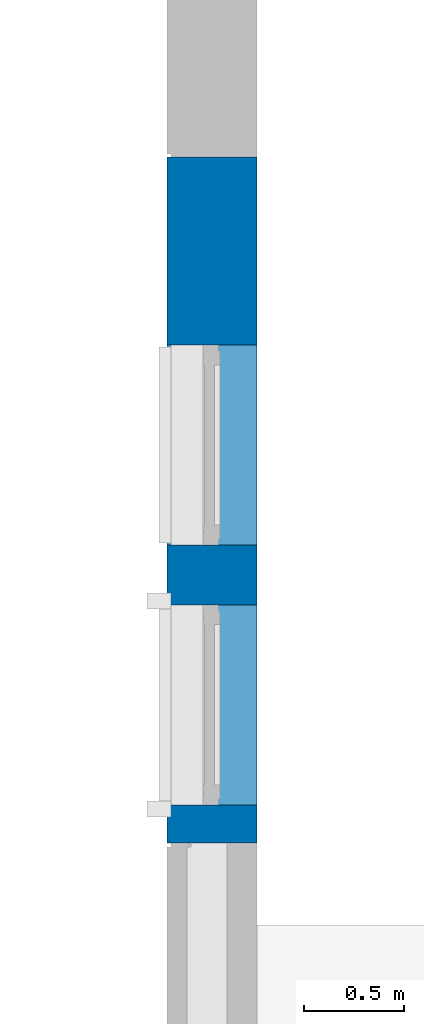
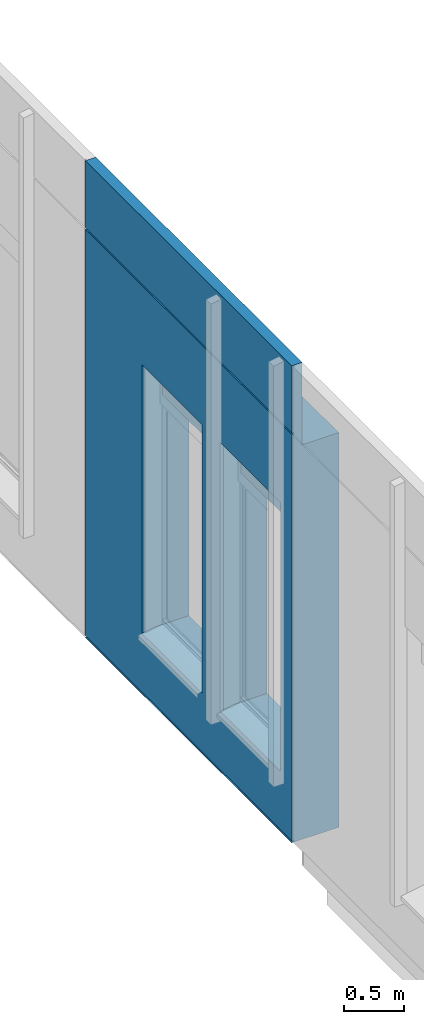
# One storey, part 8 of 33: 1 wall, 4 openings.
"""IFC2X3 building model written with IfcOpenShell, lengths in millimetres."""

import ifcopenshell
import ifcopenshell.guid

model = None  # the IFC model being written
_history = None  # IfcOwnerHistory: only IFC2X3 demands one
_inside = {}  # id of a spatial element -> (the spatial element, [elements in it])
_under = {}  # id of a project, library or spatial element -> (it, [spatial elements below it])
_declared = {}  # id of a project -> (the project, [libraries it declares])
_typed = {}  # id of a type object -> (the type object, [elements of that type])
_made_of = {}  # id of a material, layer set ... -> (it, [elements and type objects made of it])


def new_model(schema):
    """Start an empty IFC model of exactly this schema.

    Asked for "IFC4X3", IfcOpenShell would pick the latest addendum, in which some entities
    have other attributes; the version numbers below select the first issue.
    IFC2X3 requires an IfcOwnerHistory on every rooted entity: one is made here for all.
    """
    global model, _history
    if schema == "IFC4X3":
        model = ifcopenshell.file(schema_version=(4, 3, 0, 0))
    else:
        model = ifcopenshell.file(schema=schema)
    _inside.clear()
    _under.clear()
    _declared.clear()
    _typed.clear()
    _made_of.clear()
    _history = None
    if model.schema == "IFC2X3":
        org = make("IfcOrganization", Name="unknown")
        user = make(
            "IfcPersonAndOrganization",
            ThePerson=make("IfcPerson", FamilyName="unknown"),
            TheOrganization=org,
        )
        app = make(
            "IfcApplication",
            ApplicationDeveloper=org,
            Version="unknown",
            ApplicationFullName="unknown",
            ApplicationIdentifier="unknown",
        )
        _history = make(
            "IfcOwnerHistory",
            OwningUser=user,
            OwningApplication=app,
            ChangeAction="ADDED",
            CreationDate=0,
        )
    return model


def make(cls, **values):
    """One entity of the class cls with the attributes given. An attribute that is None is left unset."""
    return model.create_entity(
        cls, **{name: value for name, value in values.items() if value is not None}
    )


def entity(cls, *values):
    """Any entity or typed value of the class cls, its attributes in the order of the schema. None: left unset."""
    e = model.create_entity(cls)
    for i, value in enumerate(values):
        if value is not None:
            e[i] = value
    return e


def rooted(cls, **values):
    """An entity with a GlobalId (a new one), such as an element, a storey or a relation."""
    return make(cls, GlobalId=ifcopenshell.guid.new(), OwnerHistory=_history, **values)


def si_unit(unit_type, name, prefix=None):
    """IfcSIUnit, for example si_unit("LENGTHUNIT", "METRE", prefix="MILLI")."""
    return make("IfcSIUnit", UnitType=unit_type, Prefix=prefix, Name=name)


def converted_unit(unit_type, name, factor, base, dimensions=None, offset=None):
    """IfcConversionBasedUnit, such as the inch: factor (a typed value) times the base unit."""
    return make(
        "IfcConversionBasedUnit"
        if offset is None
        else "IfcConversionBasedUnitWithOffset",
        ConversionOffset=offset,
        Dimensions=None
        if dimensions is None
        else entity("IfcDimensionalExponents", *dimensions),
        UnitType=unit_type,
        Name=name,
        ConversionFactor=make(
            "IfcMeasureWithUnit", ValueComponent=factor, UnitComponent=base
        ),
    )


def derived_unit(unit_type, elements):
    """IfcDerivedUnit: a product of units, each with its exponent."""
    return make(
        "IfcDerivedUnit",
        Elements=[
            make("IfcDerivedUnitElement", Unit=unit, Exponent=power)
            for unit, power in elements
        ],
        UnitType=unit_type,
    )


def assignment(units):
    """IfcUnitAssignment: the units of a project."""
    return None if units is None else make("IfcUnitAssignment", Units=units)


def point(xyz):
    """IfcCartesianPoint."""
    return None if xyz is None else make("IfcCartesianPoint", Coordinates=xyz)


def direction(xyz):
    """IfcDirection."""
    return None if xyz is None else make("IfcDirection", DirectionRatios=xyz)


def frame(location, z_axis=None, x_axis=None):
    """IfcAxis2Placement3D, a coordinate frame: its origin and axes. An axis left out is left unset."""
    return make(
        "IfcAxis2Placement3D",
        Location=point(location),
        Axis=direction(z_axis),
        RefDirection=direction(x_axis),
    )


def frame_2d(location, x_axis=None):
    """IfcAxis2Placement2D, a coordinate frame in the plane: its origin and x axis."""
    return make(
        "IfcAxis2Placement2D", Location=point(location), RefDirection=direction(x_axis)
    )


def origin():
    """The frame at (0, 0, 0) with its axes left unset."""
    return frame((0.0, 0.0, 0.0))


def place(relative_to, where):
    """IfcLocalPlacement: puts the frame where relative to a parent placement (None: the world)."""
    return make(
        "IfcLocalPlacement", PlacementRelTo=relative_to, RelativePlacement=where
    )


def context(
    kind, dimensions, precision=None, world=None, true_north=None, identifier=None
):
    """IfcGeometricRepresentationContext, for example the 3D "Model" context."""
    return make(
        "IfcGeometricRepresentationContext",
        ContextIdentifier=identifier,
        ContextType=kind,
        CoordinateSpaceDimension=dimensions,
        Precision=precision,
        WorldCoordinateSystem=world,
        TrueNorth=true_north,
    )


def subcontext(parent, identifier, kind, view, scale=None):
    """IfcGeometricRepresentationSubContext, for example "Body" below "Model"."""
    return make(
        "IfcGeometricRepresentationSubContext",
        ContextIdentifier=identifier,
        ContextType=kind,
        ParentContext=parent,
        TargetScale=scale,
        TargetView=view,
    )


def project(units=None, contexts=None):
    """IfcProject with its units and contexts."""
    return rooted(
        "IfcProject",
        Name="project",
        RepresentationContexts=contexts,
        UnitsInContext=assignment(units),
    )


def spatial(cls, under=None, at=None, **own):
    """A site, building, storey or space (cls), placed at a placement, below another one or the project."""
    s = rooted(cls, ObjectPlacement=at, **own)
    if under is not None:
        _under.setdefault(under.id(), (under, []))[1].append(s)
    return s


def polyline(points):
    """IfcPolyline through the points."""
    return make("IfcPolyline", Points=[point(p) for p in points])


def profile(cls, at=None, kind="AREA", **sizes):
    """A parametric profile (cls). Its sizes go by their IFC names, for example OverallWidth=200.0."""
    return make(cls, ProfileType=kind, Position=at, **sizes)


def rectangle(**sizes):
    """IfcRectangleProfileDef."""
    return profile("IfcRectangleProfileDef", **sizes)


def extrude(swept, where, along, depth):
    """IfcExtrudedAreaSolid: the profile swept, set in the frame where, extruded along a direction by depth."""
    return make(
        "IfcExtrudedAreaSolid",
        SweptArea=swept,
        Position=where,
        ExtrudedDirection=direction(along),
        Depth=depth,
    )


def clip(a, b, op="DIFFERENCE"):
    """IfcBooleanClippingResult: the solid a cut by the half space b."""
    return make(
        "IfcBooleanClippingResult", Operator=op, FirstOperand=a, SecondOperand=b
    )


def bounded_halfspace(plane, agree, where, boundary):
    """IfcPolygonalBoundedHalfSpace: a half space limited to a polygon's prism."""
    return make(
        "IfcPolygonalBoundedHalfSpace",
        BaseSurface=make("IfcPlane", Position=plane),
        AgreementFlag=agree,
        Position=where,
        PolygonalBoundary=boundary,
    )


def faces_of(points, faces, orient=None, outer=None):
    """IfcFace entities. A face is a list of loops; a loop is a list of indices into points, from 0.

    orient and outer hold one flag for each loop. By default every Orientation is true, the
    first loop of a face is its IfcFaceOuterBound and the others are IfcFaceBound.
    """
    made = []
    for i, loops in enumerate(faces):
        bounds = []
        for j, loop in enumerate(loops):
            is_outer = j == 0 if outer is None else outer[i][j]
            bounds.append(
                make(
                    "IfcFaceOuterBound" if is_outer else "IfcFaceBound",
                    Bound=make("IfcPolyLoop", Polygon=[points[k] for k in loop]),
                    Orientation=True if orient is None else orient[i][j],
                )
            )
        made.append(make("IfcFace", Bounds=bounds))
    return made


def faceted_brep(points, faces, orient=None, outer=None, voids=None):
    """IfcFacetedBrep: a solid bounded by flat faces; with voids (closed shells), ...WithVoids."""
    shared = [point(p) for p in points]
    hull = make("IfcClosedShell", CfsFaces=faces_of(shared, faces, orient, outer))
    if voids is None:
        return make("IfcFacetedBrep", Outer=hull)
    return make(
        "IfcFacetedBrepWithVoids",
        Outer=hull,
        Voids=[
            make(cls, CfsFaces=faces_of(shared, fs, o, b)) for cls, fs, o, b in voids
        ],
    )


def shape(context_of_items, identifier, shape_type, items):
    """IfcShapeRepresentation: the items that make up one representation, for example the "Body"."""
    return make(
        "IfcShapeRepresentation",
        ContextOfItems=context_of_items,
        RepresentationIdentifier=identifier,
        RepresentationType=shape_type,
        Items=items,
    )


def material(Name=None, Category=None):
    """IfcMaterial."""
    return make("IfcMaterial", Name=Name, Category=Category)


def layer(
    of_material, thickness, ventilated=None, Name=None, Category=None, Priority=None
):
    """IfcMaterialLayer: one layer of a wall or slab, of a material (None: an air gap)."""
    return make(
        "IfcMaterialLayer",
        Material=of_material,
        LayerThickness=thickness,
        IsVentilated=ventilated,
        Name=Name,
        Category=Category,
        Priority=Priority,
    )


def layer_set(layers, Name=None):
    """IfcMaterialLayerSet."""
    return make("IfcMaterialLayerSet", MaterialLayers=layers, LayerSetName=Name)


def layer_usage(for_layer_set, set_direction, sense, offset, extent=None):
    """IfcMaterialLayerSetUsage: how a layer set lies in its element."""
    return make(
        "IfcMaterialLayerSetUsage",
        ForLayerSet=for_layer_set,
        LayerSetDirection=set_direction,
        DirectionSense=sense,
        OffsetFromReferenceLine=offset,
        ReferenceExtent=extent,
    )


def made_of(thing, what):
    """Note that an element or type object is made of a material, layer set ...; save() writes the relation."""
    if what is not None:
        _made_of.setdefault(what.id(), (what, []))[1].append(thing)
    return thing


def type_object(cls, material=None, **own):
    """A type object (cls), such as IfcWallType, which elements share."""
    return made_of(rooted(cls, **own), material)


def element(
    cls,
    number,
    at=None,
    inside=None,
    cuts=None,
    type_object=None,
    material=None,
    context=None,
    identifier="Body",
    shape_type=None,
    held_by="IfcProductDefinitionShape",
    body=None,
    shapes=None,
    **own,
):
    """One element of the class cls, such as IfcWall. Its Tag is "e" and its number.

    at: its placement. inside: the storey or other place that contains it. cuts: it is an
    opening in that element (IfcRelVoidsElement). A single representation is given by context,
    identifier, shape_type and body (its items); several are given by shapes. held_by: the class
    of the entity that holds the representations. save() writes the other relations.
    """
    e = rooted(cls, Tag="e%d" % number, ObjectPlacement=at, **own)
    if body is not None:
        shapes = [shape(context, identifier, shape_type, body)]
    if shapes is not None:
        e.Representation = make(held_by, Representations=shapes)
    if inside is not None:
        _inside.setdefault(inside.id(), (inside, []))[1].append(e)
    if cuts is not None:
        rooted(
            "IfcRelVoidsElement", RelatingBuildingElement=cuts, RelatedOpeningElement=e
        )
    if type_object is not None:
        _typed.setdefault(type_object.id(), (type_object, []))[1].append(e)
    return made_of(e, material)


def aggregate(whole, parts):
    """IfcRelAggregates: a whole, such as a stair, and the parts it consists of."""
    return rooted("IfcRelAggregates", RelatingObject=whole, RelatedObjects=parts)


def save(model, path):
    """Write the relations noted so far, then the file.

    IfcRelAggregates (storeys below a building ...), IfcRelContainedInSpatialStructure (elements
    in a storey), IfcRelDefinesByType, IfcRelAssociatesMaterial and IfcRelDeclares: one each for
    every whole, place, type object, material and project.
    """
    for whole, parts in _under.values():
        aggregate(whole, parts)
    for where, things in _inside.values():
        rooted(
            "IfcRelContainedInSpatialStructure",
            RelatedElements=things,
            RelatingStructure=where,
        )
    for kind, things in _typed.values():
        rooted("IfcRelDefinesByType", RelatedObjects=things, RelatingType=kind)
    for what, things in _made_of.values():
        rooted("IfcRelAssociatesMaterial", RelatedObjects=things, RelatingMaterial=what)
    for by, libraries in _declared.values():
        rooted("IfcRelDeclares", RelatingContext=by, RelatedDefinitions=libraries)
    model.write(path)


model = new_model("IFC2X3")

# Units and contexts
model_context = context("Model", 3, precision=0.01, world=origin(), true_north=direction((6.12303176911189e-17, 1.0)))
body_context = subcontext(model_context, "Body", "Model", "MODEL_VIEW")
ifc_project = project(units=[si_unit("LENGTHUNIT", "METRE", prefix="MILLI"), si_unit("AREAUNIT", "SQUARE_METRE"), si_unit("VOLUMEUNIT", "CUBIC_METRE"), converted_unit("PLANEANGLEUNIT", "DEGREE", entity("IfcRatioMeasure", 0.0174532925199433), si_unit("PLANEANGLEUNIT", "RADIAN"), dimensions=[0, 0, 0, 0, 0, 0, 0]), si_unit("MASSUNIT", "GRAM", prefix="KILO"), derived_unit("MASSDENSITYUNIT", [(si_unit("MASSUNIT", "GRAM", prefix="KILO"), 1), (si_unit("LENGTHUNIT", "METRE"), -3)]), si_unit("TIMEUNIT", "SECOND"), si_unit("FREQUENCYUNIT", "HERTZ"), si_unit("THERMODYNAMICTEMPERATUREUNIT", "DEGREE_CELSIUS"), derived_unit("THERMALTRANSMITTANCEUNIT", [(si_unit("MASSUNIT", "GRAM", prefix="KILO"), 1), (si_unit("THERMODYNAMICTEMPERATUREUNIT", "KELVIN"), -1), (si_unit("TIMEUNIT", "SECOND"), -3)]), derived_unit("VOLUMETRICFLOWRATEUNIT", [(si_unit("LENGTHUNIT", "METRE"), 3), (si_unit("TIMEUNIT", "SECOND"), -1)]), si_unit("ELECTRICCURRENTUNIT", "AMPERE"), si_unit("ELECTRICVOLTAGEUNIT", "VOLT"), si_unit("POWERUNIT", "WATT"), si_unit("FORCEUNIT", "NEWTON", prefix="KILO"), si_unit("ILLUMINANCEUNIT", "LUX"), si_unit("LUMINOUSFLUXUNIT", "LUMEN"), si_unit("LUMINOUSINTENSITYUNIT", "CANDELA"), derived_unit("USERDEFINED", [(si_unit("MASSUNIT", "GRAM", prefix="KILO"), -1), (si_unit("LENGTHUNIT", "METRE"), -2), (si_unit("TIMEUNIT", "SECOND"), 3), (si_unit("LUMINOUSFLUXUNIT", "LUMEN"), 1)]), derived_unit("LINEARVELOCITYUNIT", [(si_unit("LENGTHUNIT", "METRE"), 1), (si_unit("TIMEUNIT", "SECOND"), -1)]), si_unit("PRESSUREUNIT", "PASCAL"), derived_unit("USERDEFINED", [(si_unit("LENGTHUNIT", "METRE"), -2), (si_unit("MASSUNIT", "GRAM", prefix="KILO"), 1), (si_unit("TIMEUNIT", "SECOND"), -2)])], contexts=[model_context])

# Site, building, storey
site_placement = place(None, origin())
site = spatial("IfcSite", under=ifc_project, at=site_placement, Name="Default", CompositionType="ELEMENT")
building_placement = place(site_placement, origin())
building = spatial("IfcBuilding", under=site, at=building_placement, CompositionType="ELEMENT")
storey_placement = place(building_placement, frame((0.0, 0.0, 4000.0)))
storey = spatial("IfcBuildingStorey", under=building, at=storey_placement, Name="2. KORRUS", CompositionType="ELEMENT", Elevation=4000.0)

# Wall, openings
ifc_material_1 = material(Name="RECKLI 1 173 THUR by Polantis 2016-toon3")
ifc_layer_1 = layer(ifc_material_1, 100.0)
ifc_material_2 = material(Name="Soojusisolatsioon EPS")
ifc_layer_2 = layer(ifc_material_2, 200.0)
ifc_material_3 = material(Name="r/b")
ifc_layer_3 = layer(ifc_material_3, 150.0)
ifc_layer_set = layer_set([ifc_layer_1, ifc_layer_2, ifc_layer_3], Name="Basic Wall:VS-1_toon-b")
ifc_layer_usage = layer_usage(ifc_layer_set, "AXIS2", "POSITIVE", -225.0)
wall_type = type_object("IfcWallType", Name="Basic Wall:VS-1_toon-b", PredefinedType="STANDARD", material=ifc_layer_set)
wall_placement = place(storey_placement, frame((-225.0, 16440.0006972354, -135.0), z_axis=(0.0, 0.0, 1.0), x_axis=(0.0, -1.0, 0.0)))
wall = element("IfcWallStandardCase", 1, at=wall_placement, inside=storey, type_object=wall_type, material=ifc_layer_usage, Name="Basic Wall:VS-1_toon-b", ObjectType="Basic Wall:VS-1_toon-b", context=body_context, shape_type="Clipping", body=[
    clip(extrude(rectangle(XDim=3430.00069726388, YDim=450.0, at=frame_2d((1715.00034863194, -1.4210854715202e-14), x_axis=(-1.0, 0.0))), origin(), (0.0, 0.0, 1.0), 4835.0), bounded_halfspace(frame((3430.00069726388, 225.0, 4000.0), z_axis=(0.0, 0.0, 1.0), x_axis=(0.0, 1.0, 0.0)), False, frame((3430.00069726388, 225.0, 4000.0)), polyline([(0.0, 0.0), (-3430.00069726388, 0.0), (-3430.00069726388, -350.0), (0.0, -350.0), (0.0, 0.0)]))),
])
opening_1_placement = place(wall_placement, frame((16890.0006972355, -225.0, 4.0)))
element("IfcOpeningElement", 2, at=opening_1_placement, cuts=wall, Name="Basic Wall:VS-1_toon-b", ObjectType="Opening", context=body_context, shape_type="Brep", body=[
    faceted_brep([(-20.0, 11850.0, 16.0), (0.0, 11850.0, 16.0), (0.0, 11850.0, 0.0), (-20.0, 11850.0, 0.0), (-20.0, 4260.0, 16.0), (-20.0, 4260.0, 0.0), (0.0, 4260.0, 0.0), (0.0, 4260.0, 16.0)], [[[0, 1, 2, 3]], [[4, 5, 6, 7]], [[1, 0, 4, 7]], [[2, 1, 7, 6]], [[3, 2, 6, 5]], [[0, 3, 5, 4]]]),
    faceted_brep([(-28480.0, 20.0, 16.0), (-28480.0, 20.0, 0.0), (-28500.0, 0.0, 0.0), (-28500.0, 0.0, 16.0), (-23740.0, 20.0, 16.0), (-23740.0, 0.0, 16.0), (-23740.0, 0.0, 0.0), (-23740.0, 20.0, 0.0)], [[[0, 1, 2, 3]], [[4, 5, 6, 7]], [[1, 0, 4, 7]], [[2, 1, 7, 6]], [[3, 2, 6, 5]], [[0, 3, 5, 4]]]),
    faceted_brep([(-22380.0517807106, 10080.0, 16.0), (-22400.0517807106, 10100.0, 16.0), (-22400.0517807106, 10100.0, 0.0), (-22380.0517807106, 10080.0, 0.0), (-22380.0517807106, 15330.3475962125, 16.0), (-22380.0517807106, 15330.3475962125, 0.0), (-22400.0517807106, 15330.3475962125, 0.0), (-22400.0517807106, 15330.3475962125, 16.0)], [[[0, 1, 2, 3]], [[4, 5, 6, 7]], [[1, 0, 4, 7]], [[2, 1, 7, 6]], [[3, 2, 6, 5]], [[0, 3, 5, 4]]]),
    faceted_brep([(-28480.0, 20.0, 16.0), (-28500.0, 0.0, 16.0), (-28500.0, 0.0, 0.0), (-28480.0, 20.0, 0.0), (-28480.0, 4360.0, 16.0), (-28480.0, 4360.0, 0.0), (-28500.0, 4360.0, 0.0), (-28500.0, 4360.0, 16.0)], [[[0, 1, 2, 3]], [[4, 5, 6, 7]], [[1, 0, 4, 7]], [[2, 1, 7, 6]], [[3, 2, 6, 5]], [[0, 3, 5, 4]]]),
    faceted_brep([(-20.0, 40380.0, 16.0), (0.0, 40400.0, 16.0), (0.0, 40400.0, 0.0), (-20.0, 40380.0, 0.0), (-20.0, 35250.0, 16.0), (-20.0, 35250.0, 0.0), (0.0, 35250.0, 0.0), (0.0, 35250.0, 16.0)], [[[0, 1, 2, 3]], [[4, 5, 6, 7]], [[1, 0, 4, 7]], [[2, 1, 7, 6]], [[3, 2, 6, 5]], [[0, 3, 5, 4]]]),
    faceted_brep([(-22380.0517807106, 34420.1035702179, 16.0), (-22400.0517807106, 34420.1035702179, 16.0), (-22400.0517807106, 34420.1035702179, 0.0), (-22380.0517807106, 34420.1035702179, 0.0), (-22380.0517807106, 40380.0, 16.0), (-22380.0517807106, 40380.0, 0.0), (-22400.0517807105, 40400.0, 0.0), (-22400.0517807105, 40400.0, 16.0)], [[[0, 1, 2, 3]], [[4, 5, 6, 7]], [[1, 0, 4, 7]], [[2, 1, 7, 6]], [[3, 2, 6, 5]], [[0, 3, 5, 4]]]),
    faceted_brep([(-22380.0517807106, 29113.2161487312, 16.0), (-22400.0517807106, 29113.2161487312, 16.0), (-22400.0517807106, 29113.2161487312, 0.0), (-22380.0517807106, 29113.2161487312, 0.0), (-22380.0517807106, 34420.1035702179, 16.0), (-22380.0517807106, 34420.1035702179, 0.0), (-22400.0517807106, 34420.1035702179, 0.0), (-22400.0517807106, 34420.1035702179, 16.0)], [[[0, 1, 2, 3]], [[4, 5, 6, 7]], [[1, 0, 4, 7]], [[2, 1, 7, 6]], [[3, 2, 6, 5]], [[0, 3, 5, 4]]]),
    faceted_brep([(-28480.0, 10080.0, 16.0), (-28500.0, 10100.0, 16.0), (-28500.0, 10100.0, 0.0), (-28480.0, 10080.0, 0.0), (-22380.0517807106, 10080.0, 16.0), (-22380.0517807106, 10080.0, 0.0), (-22400.0517807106, 10100.0, 0.0), (-22400.0517807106, 10100.0, 16.0)], [[[0, 1, 2, 3]], [[4, 5, 6, 7]], [[1, 0, 4, 7]], [[2, 1, 7, 6]], [[3, 2, 6, 5]], [[0, 3, 5, 4]]]),
    faceted_brep([(-20.0, 4260.0, 16.0), (0.0, 4260.0, 16.0), (0.0, 4260.0, 0.0), (-20.0, 4260.0, 0.0), (-20.0, 0.0, 16.0), (-20.0, 0.0, 0.0), (0.0, 0.0, 0.0), (0.0, 0.0, 16.0)], [[[0, 1, 2, 3]], [[4, 5, 6, 7]], [[1, 0, 4, 7]], [[2, 1, 7, 6]], [[3, 2, 6, 5]], [[0, 3, 5, 4]]]),
    faceted_brep([(-4865.0, 40380.0, 16.0), (-4865.0, 40400.0, 16.0), (-4865.0, 40400.0, 0.0), (-4865.0, 40380.0, 0.0), (-20.0, 40380.0, 16.0), (-20.0, 40380.0, 0.0), (0.0, 40400.0, 0.0), (0.0, 40400.0, 16.0)], [[[0, 1, 2, 3]], [[4, 5, 6, 7]], [[1, 0, 4, 7]], [[2, 1, 7, 6]], [[3, 2, 6, 5]], [[0, 3, 5, 4]]]),
    faceted_brep([(-9093.33000000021, 40380.0, 16.0), (-9093.33000000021, 40400.0, 16.0), (-9093.33000000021, 40400.0, 0.0), (-9093.33000000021, 40380.0, 0.0), (-4865.0, 40380.0, 16.0), (-4865.0, 40380.0, 0.0), (-4865.0, 40400.0, 0.0), (-4865.0, 40400.0, 16.0)], [[[0, 1, 2, 3]], [[4, 5, 6, 7]], [[1, 0, 4, 7]], [[2, 1, 7, 6]], [[3, 2, 6, 5]], [[0, 3, 5, 4]]]),
    faceted_brep([(-13210.0, 40380.0, 16.0), (-13210.0, 40400.0, 16.0), (-13210.0, 40400.0, 0.0), (-13210.0, 40380.0, 0.0), (-9093.33000000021, 40380.0, 16.0), (-9093.33000000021, 40380.0, 0.0), (-9093.33000000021, 40400.0, 0.0), (-9093.33000000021, 40400.0, 16.0)], [[[0, 1, 2, 3]], [[4, 5, 6, 7]], [[1, 0, 4, 7]], [[2, 1, 7, 6]], [[3, 2, 6, 5]], [[0, 3, 5, 4]]]),
    faceted_brep([(-16240.0, 40380.0, 16.0), (-16240.0, 40400.0, 16.0), (-16240.0, 40400.0, 0.0), (-16240.0, 40380.0, 0.0), (-13210.0, 40380.0, 16.0), (-13210.0, 40380.0, 0.0), (-13210.0, 40400.0, 0.0), (-13210.0, 40400.0, 16.0)], [[[0, 1, 2, 3]], [[4, 5, 6, 7]], [[1, 0, 4, 7]], [[2, 1, 7, 6]], [[3, 2, 6, 5]], [[0, 3, 5, 4]]]),
    faceted_brep([(-22380.0517807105, 40380.0, 16.0), (-22400.0517807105, 40400.0, 16.0), (-22400.0517807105, 40400.0, 0.0), (-22380.0517807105, 40380.0, 0.0), (-16240.0, 40380.0, 16.0), (-16240.0, 40380.0, 0.0), (-16240.0, 40400.0, 0.0), (-16240.0, 40400.0, 16.0)], [[[0, 1, 2, 3]], [[4, 5, 6, 7]], [[1, 0, 4, 7]], [[2, 1, 7, 6]], [[3, 2, 6, 5]], [[0, 3, 5, 4]]]),
    faceted_brep([(-22380.0517807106, 22535.0, 16.0), (-22400.0517807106, 22535.0, 16.0), (-22400.0517807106, 22535.0, 0.0), (-22380.0517807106, 22535.0, 0.0), (-22380.0517807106, 29113.2161487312, 16.0), (-22380.0517807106, 29113.2161487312, 0.0), (-22400.0517807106, 29113.2161487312, 0.0), (-22400.0517807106, 29113.2161487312, 16.0)], [[[0, 1, 2, 3]], [[4, 5, 6, 7]], [[1, 0, 4, 7]], [[2, 1, 7, 6]], [[3, 2, 6, 5]], [[0, 3, 5, 4]]]),
    faceted_brep([(-22380.0517807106, 18703.3528910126, 16.0), (-22400.0517807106, 18703.3528910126, 16.0), (-22400.0517807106, 18703.3528910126, 0.0), (-22380.0517807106, 18703.3528910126, 0.0), (-22380.0517807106, 22535.0, 16.0), (-22380.0517807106, 22535.0, 0.0), (-22400.0517807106, 22535.0, 0.0), (-22400.0517807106, 22535.0, 16.0)], [[[0, 1, 2, 3]], [[4, 5, 6, 7]], [[1, 0, 4, 7]], [[2, 1, 7, 6]], [[3, 2, 6, 5]], [[0, 3, 5, 4]]]),
    faceted_brep([(-22380.0517807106, 15330.3475962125, 16.0), (-22400.0517807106, 15330.3475962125, 16.0), (-22400.0517807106, 15330.3475962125, 0.0), (-22380.0517807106, 15330.3475962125, 0.0), (-22380.0517807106, 18703.3528910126, 16.0), (-22380.0517807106, 18703.3528910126, 0.0), (-22400.0517807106, 18703.3528910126, 0.0), (-22400.0517807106, 18703.3528910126, 16.0)], [[[0, 1, 2, 3]], [[4, 5, 6, 7]], [[1, 0, 4, 7]], [[2, 1, 7, 6]], [[3, 2, 6, 5]], [[0, 3, 5, 4]]]),
    faceted_brep([(-28480.0, 4360.0, 16.0), (-28500.0, 4360.0, 16.0), (-28500.0, 4360.0, 0.0), (-28480.0, 4360.0, 0.0), (-28480.0, 10080.0, 16.0), (-28480.0, 10080.0, 0.0), (-28500.0, 10100.0, 0.0), (-28500.0, 10100.0, 16.0)], [[[0, 1, 2, 3]], [[4, 5, 6, 7]], [[1, 0, 4, 7]], [[2, 1, 7, 6]], [[3, 2, 6, 5]], [[0, 3, 5, 4]]]),
    faceted_brep([(-23740.0, 20.0, 16.0), (-23740.0, 20.0, 0.0), (-23740.0, 0.0, 0.0), (-23740.0, 0.0, 16.0), (-16890.0006972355, 20.0, 16.0), (-16890.0006972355, 0.0, 16.0), (-16890.0006972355, 0.0, 0.0), (-16890.0006972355, 20.0, 0.0)], [[[0, 1, 2, 3]], [[4, 5, 6, 7]], [[1, 0, 4, 7]], [[2, 1, 7, 6]], [[3, 2, 6, 5]], [[0, 3, 5, 4]]]),
    faceted_brep([(-16890.0006972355, 20.0, 16.0), (-16890.0006972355, 20.0, 0.0), (-16890.0006972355, 0.0, 0.0), (-16890.0006972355, 0.0, 16.0), (-13460.0, 20.0, 16.0), (-13460.0, 0.0, 16.0), (-13460.0, 0.0, 0.0), (-13460.0, 20.0, 0.0)], [[[0, 1, 2, 3]], [[4, 5, 6, 7]], [[1, 0, 4, 7]], [[2, 1, 7, 6]], [[3, 2, 6, 5]], [[0, 3, 5, 4]]]),
])
opening_2_placement = place(wall_placement, origin())
element("IfcOpeningElement", 3, at=opening_2_placement, cuts=wall, Name="Basic Wall:VS-1_toon-b", ObjectType="Recess", context=body_context, shape_type="SweptSolid", body=[
    extrude(rectangle(XDim=15.9999999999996, YDim=20.0, at=frame_2d((-3.37507799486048e-14, 5.40900657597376e-13), x_axis=(0.0, 1.0))), frame((16880.0006972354, 4035.0, 4147.0), z_axis=(0.0, 1.0, 0.0), x_axis=(1.0, 0.0, 0.0)), (0.0, 0.0, 1.0), 7590.0),
    extrude(rectangle(XDim=15.9999999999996, YDim=4660.0, at=frame_2d((-2.27373675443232e-12, 5.40900657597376e-13), x_axis=(0.0, 1.0))), frame((-9179.99930276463, -225.0, 4147.0), z_axis=(0.0, 1.0, 0.0), x_axis=(1.0, 0.0, 0.0)), (0.0, 0.0, 1.0), 20.0000000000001),
    extrude(rectangle(XDim=15.9999999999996, YDim=19.9999999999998, at=frame_2d((5.40900657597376e-13, -2.16626716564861e-12), x_axis=(1.0, 0.0))), frame((-5500.05108347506, 9875.0, 4147.0), z_axis=(0.0, 1.0, 0.0), x_axis=(0.0, 0.0, -1.0)), (0.0, 0.0, 1.0), 5230.3475962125),
    extrude(rectangle(XDim=15.9999999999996, YDim=19.9999999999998, at=frame_2d((5.40900657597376e-13, -2.16626716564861e-12), x_axis=(1.0, 0.0))), frame((-11599.9993027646, -225.0, 4147.0), z_axis=(0.0, 1.0, 0.0), x_axis=(0.0, 0.0, -1.0)), (0.0, 0.0, 1.0), 4360.0),
    extrude(rectangle(XDim=15.9999999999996, YDim=20.0, at=frame_2d((-3.37507799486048e-14, -5.40900657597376e-13), x_axis=(0.0, 1.0))), frame((16880.0006972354, 35025.0, 4147.0), z_axis=(0.0, 1.0, 0.0), x_axis=(1.0, 0.0, 0.0)), (0.0, 0.0, 1.0), 5050.0),
    extrude(rectangle(XDim=15.9999999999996, YDim=19.9999999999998, at=frame_2d((5.40900657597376e-13, -2.16626716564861e-12), x_axis=(1.0, 0.0))), frame((-5500.05108347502, 34195.1035702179, 4147.0), z_axis=(0.0, 1.0, 0.0), x_axis=(0.0, 0.0, -1.0)), (0.0, 0.0, 1.0), 5979.89642978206),
    extrude(rectangle(XDim=15.9999999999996, YDim=19.9999999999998, at=frame_2d((5.40900657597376e-13, -2.16626716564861e-12), x_axis=(1.0, 0.0))), frame((-5500.05108347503, 28888.2161487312, 4147.0), z_axis=(0.0, 1.0, 0.0), x_axis=(0.0, 0.0, -1.0)), (0.0, 0.0, 1.0), 5306.88742148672),
    extrude(rectangle(XDim=15.9999999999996, YDim=6099.94821928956, at=frame_2d((0.0, 0.0), x_axis=(0.0, 1.0))), frame((-8460.02519311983, 9855.0, 4147.0), z_axis=(0.0, 1.0, 0.0), x_axis=(1.0, 0.0, 0.0)), (0.0, 0.0, 1.0), 19.9999999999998),
    extrude(rectangle(XDim=15.9999999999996, YDim=20.0, at=frame_2d((-3.37507799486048e-14, 5.40900657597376e-13), x_axis=(0.0, 1.0))), frame((16880.0006972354, -125.0, 4147.0), z_axis=(0.0, 1.0, 0.0), x_axis=(1.0, 0.0, 0.0)), (0.0, 0.0, 1.0), 4160.00000000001),
    extrude(rectangle(XDim=15.9999999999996, YDim=4865.0, at=frame_2d((0.0, 5.40900657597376e-13), x_axis=(0.0, 1.0))), frame((14457.5006972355, 40155.0, 4147.0), z_axis=(0.0, 1.0, 0.0), x_axis=(1.0, 0.0, 0.0)), (0.0, 0.0, 1.0), 20.0000000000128),
    extrude(rectangle(XDim=15.9999999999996, YDim=4228.33000000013, at=frame_2d((0.0, 0.0), x_axis=(0.0, 1.0))), frame((9910.83569723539, 40155.0, 4147.0), z_axis=(0.0, 1.0, 0.0), x_axis=(1.0, 0.0, 0.0)), (0.0, 0.0, 1.0), 20.0000000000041),
    extrude(rectangle(XDim=15.9999999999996, YDim=4236.66999997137, at=frame_2d((1.13686837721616e-12, 0.0), x_axis=(0.0, 1.0))), frame((5678.33569724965, 40155.0, 4147.0), z_axis=(0.0, 1.0, 0.0), x_axis=(1.0, 0.0, 0.0)), (0.0, 0.0, 1.0), 19.9999999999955),
    extrude(rectangle(XDim=15.9999999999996, YDim=2910.00000002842, at=frame_2d((2.1600499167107e-12, 5.40900657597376e-13), x_axis=(0.0, 1.0))), frame((2105.00069724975, 40155.0, 4147.0), z_axis=(0.0, 1.0, 0.0), x_axis=(1.0, 0.0, 0.0)), (0.0, 0.0, 1.0), 20.0000000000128),
    extrude(rectangle(XDim=15.9999999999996, YDim=6060.05178071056, at=frame_2d((0.0, 0.0), x_axis=(0.0, 1.0))), frame((-2380.02519311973, 40155.0, 4147.0), z_axis=(0.0, 1.0, 0.0), x_axis=(1.0, 0.0, 0.0)), (0.0, 0.0, 1.0), 19.9999999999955),
    extrude(rectangle(XDim=15.9999999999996, YDim=19.9999999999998, at=frame_2d((5.40900657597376e-13, -2.16626716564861e-12), x_axis=(1.0, 0.0))), frame((-5500.05108347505, 18478.3528910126, 4147.0), z_axis=(0.0, 1.0, 0.0), x_axis=(0.0, 0.0, -1.0)), (0.0, 0.0, 1.0), 3831.64710898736),
    extrude(rectangle(XDim=15.9999999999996, YDim=19.9999999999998, at=frame_2d((5.40900657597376e-13, -2.16626716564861e-12), x_axis=(1.0, 0.0))), frame((-5500.05108347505, 15105.3475962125, 4147.0), z_axis=(0.0, 1.0, 0.0), x_axis=(0.0, 0.0, -1.0)), (0.0, 0.0, 1.0), 3373.00529480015),
    extrude(rectangle(XDim=15.9999999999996, YDim=19.9999999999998, at=frame_2d((5.40900657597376e-13, 2.16626716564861e-12), x_axis=(1.0, 0.0))), frame((-11599.9993027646, 4135.0, 4147.0), z_axis=(0.0, 1.0, 0.0), x_axis=(0.0, 0.0, -1.0)), (0.0, 0.0, 1.0), 5739.99999999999),
    extrude(rectangle(XDim=15.9999999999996, YDim=6849.99930276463, at=frame_2d((1.13686837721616e-12, 5.40900657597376e-13), x_axis=(0.0, 1.0))), frame((-3424.99965138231, -225.0, 4147.0), z_axis=(0.0, 1.0, 0.0), x_axis=(1.0, 0.0, 0.0)), (0.0, 0.0, 1.0), 20.0),
    extrude(rectangle(XDim=15.9999999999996, YDim=3430.00069726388, at=frame_2d((1.02318153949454e-12, 5.40900657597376e-13), x_axis=(0.0, 1.0))), frame((1715.00034863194, -225.0, 4147.0), z_axis=(0.0, 1.0, 0.0), x_axis=(1.0, 0.0, 0.0)), (0.0, 0.0, 1.0), 20.0000000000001),
    extrude(rectangle(XDim=15.9999999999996, YDim=19.9999999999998, at=frame_2d((5.40900657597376e-13, -2.16626716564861e-12), x_axis=(1.0, 0.0))), frame((-5500.05108347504, 22310.0, 4147.0), z_axis=(0.0, 1.0, 0.0), x_axis=(0.0, 0.0, -1.0)), (0.0, 0.0, 1.0), 6578.21614873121),
    extrude(rectangle(XDim=15.9999999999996, YDim=20.0, at=frame_2d((-3.37507799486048e-14, 5.40900657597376e-13), x_axis=(0.0, 1.0))), frame((16880.0006972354, 11625.0, 4147.0), z_axis=(0.0, 1.0, 0.0), x_axis=(1.0, 0.0, 0.0)), (0.0, 0.0, 1.0), 4110.00000000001),
    extrude(rectangle(XDim=15.9999999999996, YDim=20.0, at=frame_2d((-3.37507799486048e-14, 5.40900657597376e-13), x_axis=(0.0, 1.0))), frame((16880.0006972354, 15735.0, 4147.0), z_axis=(0.0, 1.0, 0.0), x_axis=(1.0, 0.0, 0.0)), (0.0, 0.0, 1.0), 4600.0),
    extrude(rectangle(XDim=15.9999999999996, YDim=20.0, at=frame_2d((3.37507799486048e-14, 5.40900657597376e-13), x_axis=(0.0, 1.0))), frame((16880.0006972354, 20335.0, 4147.0), z_axis=(0.0, 1.0, 0.0), x_axis=(1.0, 0.0, 0.0)), (0.0, 0.0, 1.0), 4600.0),
    extrude(rectangle(XDim=15.9999999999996, YDim=20.0, at=frame_2d((3.37507799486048e-14, 5.40900657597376e-13), x_axis=(0.0, 1.0))), frame((16880.0006972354, 24935.0, 4147.0), z_axis=(0.0, 1.0, 0.0), x_axis=(1.0, 0.0, 0.0)), (0.0, 0.0, 1.0), 5299.99999999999),
    extrude(rectangle(XDim=15.9999999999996, YDim=20.0, at=frame_2d((-3.37507799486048e-14, 5.40900657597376e-13), x_axis=(0.0, 1.0))), frame((16880.0006972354, 30235.0, 4147.0), z_axis=(0.0, 1.0, 0.0), x_axis=(1.0, 0.0, 0.0)), (0.0, 0.0, 1.0), 4790.0),
    extrude(rectangle(XDim=15.9999999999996, YDim=4724.85920481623, at=frame_2d((6.82121026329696e-13, 5.40900657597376e-13), x_axis=(0.0, 1.0))), frame((5792.43029967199, -225.0, 4147.0), z_axis=(0.0, 1.0, 0.0), x_axis=(1.0, 0.0, 0.0)), (0.0, 0.0, 1.0), 20.0000000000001),
    extrude(rectangle(XDim=15.9999999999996, YDim=8735.1407951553, at=frame_2d((0.0, 5.40900657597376e-13), x_axis=(0.0, 1.0))), frame((12522.4302996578, -225.0, 4147.0), z_axis=(0.0, 1.0, 0.0), x_axis=(1.0, 0.0, 0.0)), (0.0, 0.0, 1.0), 20.0),
])
opening_3_placement = place(wall_placement, frame((1940.00069723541, -225.0, 613.057009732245), z_axis=(0.0, 0.0, 1.0), x_axis=(0.0, 1.0, 0.0)))
element("IfcOpeningElement", 4, at=opening_3_placement, cuts=wall, Name="Basic Wall:VS-1_toon-b", ObjectType="Opening", context=body_context, shape_type="Brep", body=[
    faceted_brep([(450.0, 0.0, 2346.94299026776), (450.0, 0.0, 21.9429902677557), (450.0, 1000.0, 21.9429902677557), (450.0, 1000.0, 2346.94299026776), (0.0, 1000.0, 2721.94299026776), (0.0, 1000.0, 0.0), (0.0, 0.0, 0.0), (0.0, 0.0, 2721.94299026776), (200.0, 0.0, 2346.94299026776), (200.0, 0.0, 2721.94299026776), (124.444881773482, 0.0, 21.9429902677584), (124.444881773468, 1000.0, 21.9429902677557), (200.0, 1000.0, 2721.94299026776), (200.0, 1000.0, 2346.94299026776)], [[[0, 1, 2, 3]], [[4, 5, 6, 7]], [[0, 8, 9, 7, 6, 10, 1]], [[1, 10, 11, 2]], [[2, 11, 5, 4, 12, 13, 3]], [[3, 13, 8, 0]], [[9, 8, 13, 12]], [[12, 4, 7, 9]], [[6, 5, 11, 10]]]),
])
opening_4_placement = place(wall_placement, frame((3240.00069723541, -225.0, 613.057009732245), z_axis=(0.0, 0.0, 1.0), x_axis=(0.0, 1.0, 0.0)))
element("IfcOpeningElement", 5, at=opening_4_placement, cuts=wall, Name="Basic Wall:VS-1_toon-b", ObjectType="Opening", context=body_context, shape_type="Brep", body=[
    faceted_brep([(450.0, 0.0, 2346.94299026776), (450.0, 0.0, 21.9429902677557), (450.0, 1000.0, 21.9429902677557), (450.0, 1000.0, 2346.94299026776), (0.0, 1000.0, 2721.94299026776), (0.0, 1000.0, 0.0), (0.0, 0.0, 0.0), (0.0, 0.0, 2721.94299026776), (200.0, 0.0, 2346.94299026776), (200.0, 0.0, 2721.94299026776), (124.444881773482, 0.0, 21.9429902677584), (124.444881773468, 1000.0, 21.9429902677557), (200.0, 1000.0, 2721.94299026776), (200.0, 1000.0, 2346.94299026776)], [[[0, 1, 2, 3]], [[4, 5, 6, 7]], [[0, 8, 9, 7, 6, 10, 1]], [[1, 10, 11, 2]], [[2, 11, 5, 4, 12, 13, 3]], [[3, 13, 8, 0]], [[9, 8, 13, 12]], [[12, 4, 7, 9]], [[6, 5, 11, 10]]]),
])

save(model, "model.ifc")
